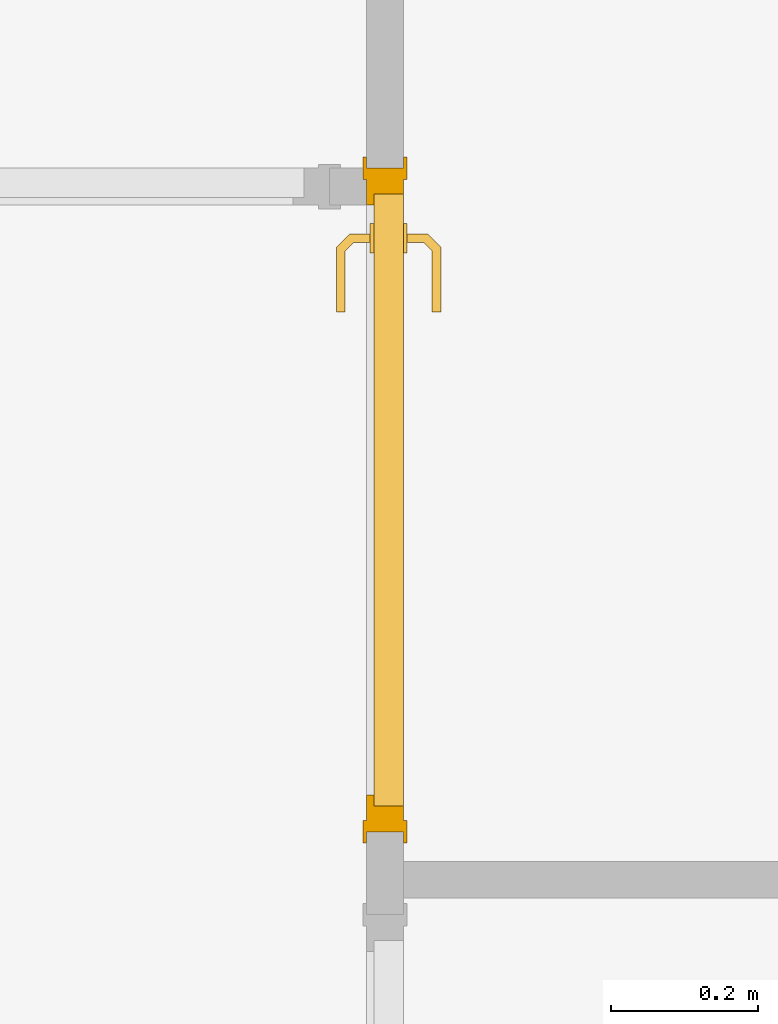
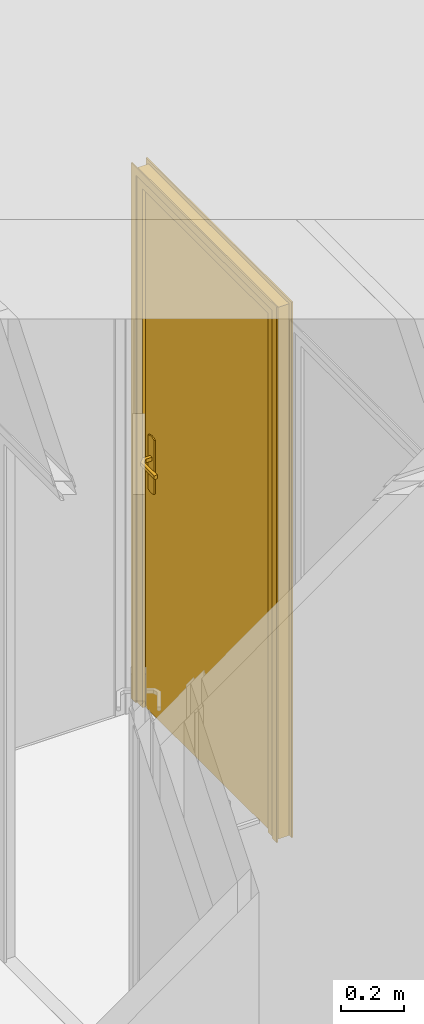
# One storey, part 6 of 14: 1 door.
"""IFC2X3 building model written with IfcOpenShell, lengths in millimetres."""

from ifc_helpers import new_model, entity, si_unit, converted_unit, direction, frame, origin, origin_with_axes, place, context, project, spatial, faceted_brep, element, save


model = new_model("IFC2X3")

# Units and contexts
model_context = context("Model", 3, precision=1e-05, world=origin(), true_north=direction((0.0, 1.0, 0.0)))
ifc_project = project(units=[si_unit("LENGTHUNIT", "METRE", prefix="MILLI"), si_unit("AREAUNIT", "SQUARE_METRE"), si_unit("VOLUMEUNIT", "CUBIC_METRE"), converted_unit("PLANEANGLEUNIT", "DEGREE", entity("IfcPlaneAngleMeasure", 0.01745), si_unit("PLANEANGLEUNIT", "RADIAN"), dimensions=[0, 0, 0, 0, 0, 0, 0]), si_unit("SOLIDANGLEUNIT", "STERADIAN"), si_unit("MASSUNIT", "GRAM"), si_unit("TIMEUNIT", "SECOND"), si_unit("THERMODYNAMICTEMPERATUREUNIT", "DEGREE_CELSIUS"), si_unit("LUMINOUSINTENSITYUNIT", "LUMEN")], contexts=[model_context])

# Site, building, storey
placement = place(None, origin_with_axes())
site_placement = place(placement, frame((11636.08881703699, 2815.7442167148, 4.768371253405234e-06), z_axis=(0.0, 0.0, 1.0), x_axis=(1.0, 0.0, 0.0)))
site = spatial("IfcSite", under=ifc_project, at=site_placement, Name="Surface", CompositionType="ELEMENT")
building_placement = place(placement, origin_with_axes())
building = spatial("IfcBuilding", under=site, at=building_placement, Name="Default Building", CompositionType="ELEMENT")
storey_placement = place(building_placement, origin_with_axes())
storey = spatial("IfcBuildingStorey", under=building, at=storey_placement, Name="Plan étage", CompositionType="ELEMENT", Elevation=0.0)

# Door
door_placement = place(storey_placement, frame((11636.08881703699, 2815.7442167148, 4.768371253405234e-06), z_axis=(0.0, 0.0, 1.0), x_axis=(1.0, 0.0, 0.0)))
element("IfcDoor", 1, at=door_placement, inside=storey, Name="IfcDoor - Int. Simple:PP (0.83m x 2.04m)", context=model_context, shape_type="Brep", body=[
    faceted_brep([(-8141.088819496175, 2369.255785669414, 2740.000042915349), (-8146.088818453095, 2399.255786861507, 2740.000042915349), (-8141.088819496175, 2399.255786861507, 2740.000042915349), (-8146.088818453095, 2369.255785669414, 2740.000042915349), (-8141.088819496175, 1499.255780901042, 2740.000042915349), (-8146.088818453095, 1469.25577970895, 2740.000042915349), (-8146.088818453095, 1499.255780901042, 2740.000042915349), (-8141.088819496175, 1469.25577970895, 2740.000042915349), (-8141.088819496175, 2369.255785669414, 4799.99998569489), (-8146.088818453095, 1499.255780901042, 4799.99998569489), (-8146.088818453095, 2369.255785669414, 4799.99998569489), (-8141.088819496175, 1499.255780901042, 4799.99998569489), (-8146.088818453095, 2399.255786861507, 4829.99995708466), (-8141.088819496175, 1469.25577970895, 4829.99995708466), (-8141.088819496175, 2399.255786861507, 4829.99995708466), (-8146.088818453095, 1469.25577970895, 4829.99995708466), (-8196.088819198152, 2369.255785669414, 4799.99998569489), (-8201.08881815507, 1499.255780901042, 4799.99998569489), (-8201.08881815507, 2369.255785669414, 4799.99998569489), (-8196.088819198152, 1499.255780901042, 4799.99998569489), (-8201.08881815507, 2399.255786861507, 4829.99995708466), (-8196.088819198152, 1469.25577970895, 4829.99995708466), (-8196.088819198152, 2399.255786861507, 4829.99995708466), (-8201.08881815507, 1469.25577970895, 4829.99995708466), (-8196.088819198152, 1469.25577970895, 2740.000042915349), (-8201.08881815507, 1469.25577970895, 2740.000042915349), (-8201.08881815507, 1499.255780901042, 2740.000042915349), (-8196.088819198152, 1499.255780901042, 2740.000042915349), (-8196.088819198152, 2369.255785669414, 2740.000042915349), (-8201.08881815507, 2369.255785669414, 2740.000042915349), (-8201.08881815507, 2399.255786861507, 2740.000042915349), (-8196.088819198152, 2399.255786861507, 2740.000042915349), (-8146.088818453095, 2349.255774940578, 4780.000004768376), (-8186.088818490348, 1519.255791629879, 4780.000004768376), (-8186.088818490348, 2349.255774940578, 4780.000004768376), (-8146.088818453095, 1519.255791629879, 4780.000004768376), (-8186.088818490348, 2334.255789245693, 4765.000019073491), (-8196.088819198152, 1534.255777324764, 4765.000019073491), (-8196.088819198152, 2334.255789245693, 4765.000019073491), (-8186.088818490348, 1534.255777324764, 4765.000019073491), (-8196.088819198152, 2384.255771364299, 4814.999971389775), (-8146.088818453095, 1484.255795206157, 4814.999971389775), (-8146.088818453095, 2384.255771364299, 4814.999971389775), (-8196.088819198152, 1484.255795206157, 4814.999971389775), (-8186.088818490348, 1519.255791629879, 2740.000042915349), (-8146.088818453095, 1519.255791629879, 2740.000042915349), (-8196.088819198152, 1534.255777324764, 2740.000042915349), (-8186.088818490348, 1534.255777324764, 2740.000042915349), (-8196.088819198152, 1484.255795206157, 2740.000042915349), (-8146.088818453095, 1484.255795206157, 2740.000042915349), (-8146.088818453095, 2349.255774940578, 2740.000042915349), (-8146.088818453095, 2384.255771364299, 2740.000042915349), (-8186.088818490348, 2349.255774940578, 2740.000042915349), (-8186.088818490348, 2334.255789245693, 2740.000042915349), (-8196.088819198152, 2334.255789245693, 2740.000042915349), (-8196.088819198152, 2384.255771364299, 2740.000042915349), (-8186.088818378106, 2349.255774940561, 4779.999980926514), (-8146.088819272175, 2349.255774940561, 2740.000019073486), (-8186.088818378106, 2349.255774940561, 2740.000019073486), (-8146.088819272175, 2349.255774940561, 4779.999980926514), (-8146.088819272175, 1519.255791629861, 2740.000019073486), (-8186.088818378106, 1519.255791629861, 2740.000019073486), (-8146.088819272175, 1519.255791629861, 4779.999980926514), (-8186.088818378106, 1519.255791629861, 4779.999980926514), (-8229.034009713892, 2273.416876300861, 3732.219558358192), (-8231.059301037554, 2231.313438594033, 3732.121313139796), (-8233.084599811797, 2275.094689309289, 3732.219558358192), (-8237.059305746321, 2236.810579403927, 3732.999999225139), (-8225.059303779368, 2230.490263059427, 3732.999999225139), (-8229.034009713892, 2189.210000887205, 3732.219558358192), (-8233.084599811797, 2189.210000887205, 3732.219558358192), (-8225.059303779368, 2189.210000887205, 3732.999999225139), (-8225.059303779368, 2271.770501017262, 3732.999999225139), (-8237.059305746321, 2276.741064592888, 3732.999999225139), (-8237.059305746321, 2189.210000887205, 3732.999999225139), (-8237.059305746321, 2276.741064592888, 3747.000001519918), (-8237.059305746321, 2236.810577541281, 3747.000001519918), (-8237.059305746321, 2189.210000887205, 3747.000001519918), (-8229.034009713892, 2189.210000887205, 3747.780442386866), (-8231.059301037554, 2231.313438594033, 3747.878685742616), (-8233.084599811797, 2189.210000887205, 3747.780442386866), (-8225.059303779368, 2230.490250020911, 3747.000001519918), (-8229.034009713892, 2273.416876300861, 3747.780442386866), (-8233.084599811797, 2275.094689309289, 3747.780442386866), (-8225.059303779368, 2189.210000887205, 3747.000001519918), (-8225.059303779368, 2271.770501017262, 3747.000001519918), (-8215.220398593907, 2287.230483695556, 3732.219558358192), (-8213.574025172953, 2283.255781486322, 3732.999999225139), (-8218.544586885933, 2295.255783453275, 3732.999999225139), (-8216.89820973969, 2291.281081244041, 3732.219558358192), (-8218.544586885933, 2295.255783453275, 3747.000001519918), (-8216.89820973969, 2291.281081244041, 3747.780442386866), (-8213.574025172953, 2283.255781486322, 3747.000001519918), (-8215.220398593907, 2287.230483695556, 3747.780442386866), (-8191.088819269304, 2287.230483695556, 3732.219558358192), (-8191.088819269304, 2283.255781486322, 3732.999999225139), (-8191.088819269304, 2291.281081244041, 3732.219558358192), (-8191.088819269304, 2295.255783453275, 3732.999999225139), (-8191.088819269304, 2295.255783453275, 3747.000001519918), (-8191.088819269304, 2291.281081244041, 3747.780442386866), (-8191.088819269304, 2287.230483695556, 3747.780442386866), (-8191.088819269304, 2283.255781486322, 3747.000001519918), (-8095.060657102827, 2189.237143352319, 3732.999999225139), (-8095.060657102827, 2236.948086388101, 3747.000001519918), (-8095.060657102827, 2189.237143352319, 3747.000001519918), (-8095.060657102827, 2276.878572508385, 3747.000001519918), (-8095.060657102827, 2236.948093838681, 3732.999999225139), (-8095.060657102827, 2276.878572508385, 3732.999999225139), (-8103.085953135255, 2189.237143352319, 3732.219558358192), (-8101.060654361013, 2231.395763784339, 3732.121313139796), (-8099.035363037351, 2189.237143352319, 3732.219558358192), (-8107.06065906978, 2230.572577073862, 3732.999999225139), (-8103.085953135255, 2273.554386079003, 3732.219558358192), (-8099.035363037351, 2275.232197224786, 3732.219558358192), (-8107.06065906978, 2189.237143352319, 3732.999999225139), (-8107.06065906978, 2271.908010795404, 3732.999999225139), (-8107.06065906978, 2189.237143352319, 3747.000001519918), (-8107.06065906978, 2230.572577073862, 3747.000001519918), (-8107.06065906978, 2271.908010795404, 3747.000001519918), (-8103.085953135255, 2273.554386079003, 3747.780442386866), (-8101.060661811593, 2231.395763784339, 3747.878685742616), (-8099.035363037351, 2275.232197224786, 3747.780442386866), (-8103.085953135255, 2189.237143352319, 3747.780442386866), (-8099.035363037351, 2189.237143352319, 3747.780442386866), (-8113.437868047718, 2295.255783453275, 3732.999999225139), (-8113.437868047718, 2295.255783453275, 3747.000001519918), (-8115.084241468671, 2291.281081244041, 3732.219558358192), (-8118.408429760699, 2283.255781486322, 3732.999999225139), (-8116.762056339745, 2287.230483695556, 3732.219558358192), (-8118.408429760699, 2283.255781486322, 3747.000001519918), (-8116.762056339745, 2287.230483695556, 3747.780442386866), (-8115.084241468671, 2291.281081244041, 3747.780442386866), (-8141.088818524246, 2295.255783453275, 3732.999999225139), (-8141.088818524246, 2295.255783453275, 3747.000001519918), (-8141.088818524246, 2291.281081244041, 3732.219558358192), (-8141.088818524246, 2287.230483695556, 3732.219558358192), (-8141.088818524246, 2283.255781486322, 3732.999999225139), (-8141.088818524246, 2283.255781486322, 3747.000001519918), (-8141.088818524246, 2287.230483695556, 3747.780442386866), (-8141.088818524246, 2291.281081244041, 3747.780442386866), (-8191.088819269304, 2269.255782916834, 3610.000003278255), (-8186.08881844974, 2269.255782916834, 3819.999996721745), (-8191.088819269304, 2269.255782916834, 3819.999996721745), (-8186.08881844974, 2269.255782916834, 3610.000003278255), (-8186.08881844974, 2278.903021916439, 3606.003981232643), (-8191.088819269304, 2278.903021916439, 3606.003981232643), (-8191.088819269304, 2289.255782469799, 3604.641016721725), (-8186.08881844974, 2289.255782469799, 3604.641016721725), (-8191.088819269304, 2299.608546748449, 3606.003981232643), (-8186.08881844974, 2299.608546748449, 3606.003981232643), (-8191.088819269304, 2309.255782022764, 3610.000003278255), (-8186.08881844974, 2309.255782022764, 3610.000003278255), (-8186.08881844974, 2309.255782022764, 3819.999996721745), (-8191.088819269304, 2309.255782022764, 3819.999996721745), (-8186.08881844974, 2299.608546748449, 3823.996018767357), (-8191.088819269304, 2299.608546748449, 3823.996018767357), (-8191.088819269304, 2289.255782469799, 3825.358983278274), (-8186.08881844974, 2289.255782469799, 3825.358983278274), (-8191.088819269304, 2278.903021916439, 3823.996018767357), (-8186.08881844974, 2278.903021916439, 3823.996018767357), (-8146.088819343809, 2309.255782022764, 3610.000003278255), (-8141.088818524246, 2309.255782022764, 3819.999996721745), (-8141.088818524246, 2309.255782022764, 3610.000003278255), (-8146.088819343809, 2309.255782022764, 3819.999996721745), (-8141.088818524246, 2299.608546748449, 3823.996018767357), (-8146.088819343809, 2299.608546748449, 3823.996018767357), (-8146.088819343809, 2289.255782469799, 3825.358983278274), (-8141.088818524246, 2289.255782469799, 3825.358983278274), (-8146.088819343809, 2278.903021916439, 3823.996018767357), (-8141.088818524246, 2278.903021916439, 3823.996018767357), (-8146.088819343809, 2269.255782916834, 3819.999996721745), (-8141.088818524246, 2269.255782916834, 3819.999996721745), (-8146.088819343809, 2269.255782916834, 3610.000003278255), (-8141.088818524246, 2269.255782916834, 3610.000003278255), (-8141.088818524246, 2278.903021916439, 3606.003981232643), (-8146.088819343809, 2278.903021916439, 3606.003981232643), (-8146.088819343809, 2289.255782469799, 3604.641016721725), (-8141.088818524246, 2289.255782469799, 3604.641016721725), (-8146.088819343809, 2299.608546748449, 3606.003981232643), (-8141.088818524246, 2299.608546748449, 3606.003981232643)], [[[0, 1, 2]], [[0, 3, 1]], [[4, 5, 6]], [[4, 7, 5]], [[8, 9, 10]], [[8, 11, 9]], [[12, 13, 14]], [[12, 15, 13]], [[15, 7, 13]], [[15, 5, 7]], [[11, 6, 9]], [[11, 4, 6]], [[0, 10, 3]], [[0, 8, 10]], [[12, 10, 15]], [[1, 10, 12]], [[10, 1, 3]], [[9, 15, 10]], [[6, 15, 9]], [[15, 6, 5]], [[1, 14, 2]], [[1, 12, 14]], [[13, 11, 14]], [[7, 11, 13]], [[11, 7, 4]], [[8, 14, 11]], [[0, 14, 8]], [[14, 0, 2]], [[16, 17, 18]], [[16, 19, 17]], [[20, 21, 22]], [[20, 23, 21]], [[23, 24, 21]], [[23, 25, 24]], [[19, 26, 17]], [[19, 27, 26]], [[27, 25, 26]], [[27, 24, 25]], [[28, 18, 29]], [[28, 16, 18]], [[20, 18, 23]], [[30, 18, 20]], [[18, 30, 29]], [[17, 23, 18]], [[26, 23, 17]], [[23, 26, 25]], [[30, 22, 31]], [[30, 20, 22]], [[21, 19, 22]], [[24, 19, 21]], [[19, 24, 27]], [[16, 22, 19]], [[28, 22, 16]], [[22, 28, 31]], [[28, 30, 31]], [[28, 29, 30]], [[32, 33, 34]], [[32, 35, 33]], [[36, 37, 38]], [[36, 39, 37]], [[40, 41, 42]], [[40, 43, 41]], [[35, 44, 33]], [[35, 45, 44]], [[39, 46, 37]], [[39, 47, 46]], [[47, 48, 46]], [[44, 48, 47]], [[45, 48, 44]], [[48, 45, 49]], [[43, 49, 41]], [[43, 48, 49]], [[41, 35, 42]], [[49, 35, 41]], [[35, 49, 45]], [[32, 42, 35]], [[50, 42, 32]], [[42, 50, 51]], [[50, 34, 52]], [[50, 32, 34]], [[33, 39, 34]], [[44, 39, 33]], [[39, 44, 47]], [[36, 34, 39]], [[53, 34, 36]], [[34, 53, 52]], [[53, 38, 54]], [[53, 36, 38]], [[40, 38, 43]], [[55, 38, 40]], [[38, 55, 54]], [[37, 43, 38]], [[46, 43, 37]], [[43, 46, 48]], [[55, 42, 51]], [[55, 40, 42]], [[54, 52, 53]], [[55, 52, 54]], [[55, 50, 52]], [[50, 55, 51]], [[56, 57, 58]], [[56, 59, 57]], [[58, 60, 61]], [[58, 57, 60]], [[61, 62, 63]], [[61, 60, 62]], [[63, 59, 56]], [[63, 62, 59]], [[59, 60, 57]], [[59, 62, 60]], [[56, 61, 63]], [[56, 58, 61]], [[64, 65, 66]], [[65, 67, 66]], [[65, 68, 69]], [[65, 69, 70]], [[71, 69, 68]], [[68, 64, 72]], [[64, 68, 65]], [[67, 73, 66]], [[67, 70, 74]], [[65, 70, 67]], [[67, 75, 73]], [[74, 75, 67]], [[74, 76, 75]], [[76, 74, 77]], [[78, 79, 80]], [[79, 81, 82]], [[79, 82, 83]], [[79, 83, 76]], [[76, 83, 75]], [[80, 76, 77]], [[78, 84, 81]], [[82, 81, 85]], [[80, 79, 76]], [[79, 78, 81]], [[81, 72, 85]], [[84, 72, 81]], [[84, 68, 72]], [[68, 84, 71]], [[70, 77, 74]], [[70, 80, 77]], [[69, 80, 70]], [[69, 78, 80]], [[69, 84, 78]], [[84, 69, 71]], [[86, 72, 64]], [[86, 87, 72]], [[88, 66, 73]], [[88, 89, 66]], [[73, 90, 88]], [[73, 75, 90]], [[90, 83, 91]], [[90, 75, 83]], [[92, 82, 85]], [[92, 93, 82]], [[85, 87, 92]], [[85, 72, 87]], [[94, 87, 86]], [[94, 95, 87]], [[66, 86, 64]], [[86, 66, 89]], [[89, 94, 86]], [[94, 89, 96]], [[97, 89, 88]], [[97, 96, 89]], [[90, 97, 88]], [[90, 98, 97]], [[98, 91, 99]], [[98, 90, 91]], [[91, 100, 99]], [[91, 93, 100]], [[83, 93, 91]], [[93, 83, 82]], [[100, 92, 101]], [[100, 93, 92]], [[92, 95, 101]], [[92, 87, 95]], [[98, 96, 97]], [[99, 96, 98]], [[99, 94, 96]], [[100, 94, 99]], [[100, 95, 94]], [[95, 100, 101]], [[102, 103, 104]], [[102, 105, 103]], [[106, 105, 102]], [[105, 106, 107]], [[108, 109, 110]], [[109, 111, 112]], [[109, 112, 113]], [[109, 113, 106]], [[106, 113, 107]], [[110, 106, 102]], [[108, 114, 111]], [[112, 111, 115]], [[110, 109, 106]], [[109, 108, 111]], [[116, 115, 114]], [[117, 115, 116]], [[115, 117, 118]], [[119, 120, 121]], [[120, 103, 121]], [[120, 117, 122]], [[120, 122, 123]], [[116, 122, 117]], [[117, 119, 118]], [[119, 117, 120]], [[103, 105, 121]], [[103, 123, 104]], [[120, 123, 103]], [[114, 122, 116]], [[108, 122, 114]], [[108, 123, 122]], [[110, 123, 108]], [[110, 104, 123]], [[104, 110, 102]], [[105, 124, 125]], [[105, 107, 124]], [[126, 107, 113]], [[126, 124, 107]], [[127, 112, 115]], [[127, 128, 112]], [[115, 129, 127]], [[115, 118, 129]], [[130, 118, 119]], [[130, 129, 118]], [[125, 121, 105]], [[125, 131, 121]], [[125, 132, 133]], [[125, 124, 132]], [[132, 126, 134]], [[132, 124, 126]], [[126, 128, 134]], [[113, 128, 126]], [[128, 113, 112]], [[134, 128, 135]], [[135, 127, 136]], [[135, 128, 127]], [[127, 137, 136]], [[127, 129, 137]], [[138, 129, 130]], [[138, 137, 129]], [[121, 130, 119]], [[131, 130, 121]], [[131, 138, 130]], [[138, 131, 139]], [[133, 131, 125]], [[133, 139, 131]], [[134, 133, 132]], [[134, 139, 133]], [[135, 139, 134]], [[135, 138, 139]], [[135, 137, 138]], [[137, 135, 136]], [[140, 141, 142]], [[140, 143, 141]], [[144, 140, 145]], [[144, 143, 140]], [[144, 146, 147]], [[144, 145, 146]], [[147, 148, 149]], [[147, 146, 148]], [[149, 150, 151]], [[149, 148, 150]], [[150, 152, 151]], [[150, 153, 152]], [[154, 153, 155]], [[154, 152, 153]], [[154, 156, 157]], [[154, 155, 156]], [[157, 158, 159]], [[157, 156, 158]], [[159, 142, 141]], [[159, 158, 142]], [[146, 150, 148]], [[146, 153, 150]], [[145, 153, 146]], [[145, 155, 153]], [[140, 155, 145]], [[140, 156, 155]], [[140, 158, 156]], [[158, 140, 142]], [[159, 154, 157]], [[141, 154, 159]], [[141, 152, 154]], [[141, 151, 152]], [[143, 151, 141]], [[144, 151, 143]], [[144, 149, 151]], [[149, 144, 147]], [[160, 161, 162]], [[160, 163, 161]], [[164, 163, 165]], [[164, 161, 163]], [[164, 166, 167]], [[164, 165, 166]], [[167, 168, 169]], [[167, 166, 168]], [[169, 170, 171]], [[169, 168, 170]], [[172, 171, 170]], [[172, 173, 171]], [[174, 172, 175]], [[174, 173, 172]], [[174, 176, 177]], [[174, 175, 176]], [[177, 178, 179]], [[177, 176, 178]], [[179, 160, 162]], [[179, 178, 160]], [[175, 178, 176]], [[172, 178, 175]], [[172, 160, 178]], [[170, 160, 172]], [[170, 163, 160]], [[168, 163, 170]], [[168, 165, 163]], [[165, 168, 166]], [[169, 164, 167]], [[171, 164, 169]], [[171, 161, 164]], [[171, 162, 161]], [[173, 162, 171]], [[174, 162, 173]], [[174, 179, 162]], [[179, 174, 177]]]),
])

save(model, "model.ifc")
